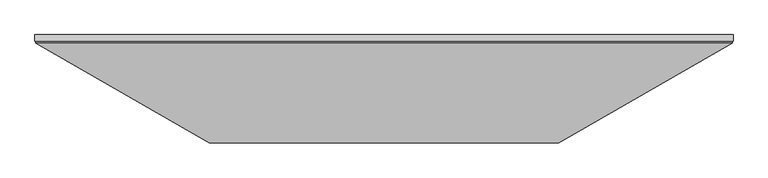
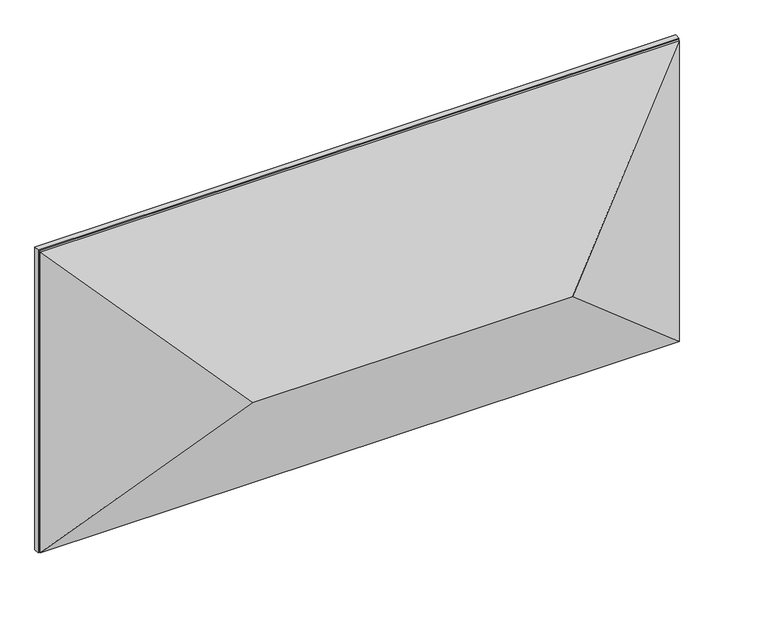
"""IFC4 building model written with IfcOpenShell, lengths in millimetres: proxy geometry, IMPRESS^TABLE 5_42x84 RECT-PARTS SOLID."""

from ifc_helpers import new_model, si_unit, frame, origin, place, context, project, spatial, polyline, outline, extrude, faceted_brep, source, transform, mapped, element, save


def generic_models_f785f9ae(model_context):
    return source(origin(), model_context, "Body", "SolidModel", [
        extrude(outline(polyline([(3.175, 38.1), (-2130.425, 38.1), (-2130.425, 57.15), (3.175, 57.15), (3.175, 38.1)])), frame((0.0, 0.0, -1063.625), z_axis=(0.0, 0.0, 1.0), x_axis=(1.0, 0.0, 0.0)), (0.0, 0.0, 1.0), 1066.8),
        faceted_brep([(-2127.25, 31.75, 0.0), (-1597.025, -274.3755465, -530.225), (-530.225, -274.3755465, -530.225), (0.0, 31.75, 0.0), (-2127.25, 31.75, -1060.45), (0.0, 31.75, -1060.45), (-2127.25, 38.1, 0.0), (-2127.25, 38.1, -1060.45), (0.0, 38.1, 0.0), (0.0, 38.1, -1060.45)], [[[0, 1, 2, 3]], [[1, 0, 4]], [[3, 2, 5]], [[1, 4, 5, 2]], [[4, 0, 6, 7]], [[0, 3, 8, 6]], [[3, 5, 9, 8]], [[5, 4, 7, 9]], [[9, 7, 6, 8]]]),
    ])


if __name__ == "__main__":
    model = new_model("IFC4")
    model_context = context("Model", 3, world=origin())
    ifc_project = project(units=[si_unit("LENGTHUNIT", "METRE", prefix="MILLI")], contexts=[model_context])
    site = spatial("IfcSite", under=ifc_project)
    building = spatial("IfcBuilding", under=site)
    placement = place(None, origin())
    generic_models_shape = generic_models_f785f9ae(model_context)
    element("IfcBuildingElementProxy", 1, Name="IMPRESS^TABLE 5_42x84 RECT-PARTS SOLID", ObjectType="IMPRESS^TABLE 5_42x84 RECT-PARTS SOLID", at=placement, inside=building, context=model_context, shape_type="MappedRepresentation", body=[
        mapped(generic_models_shape, transform((0.0, 0.0, 0.0), x_axis=(1.0, 0.0, 0.0), y_axis=(0.0, 1.0, 0.0), z_axis=(0.0, 0.0, 1.0))),
    ])
    save(model, "model.ifc")
